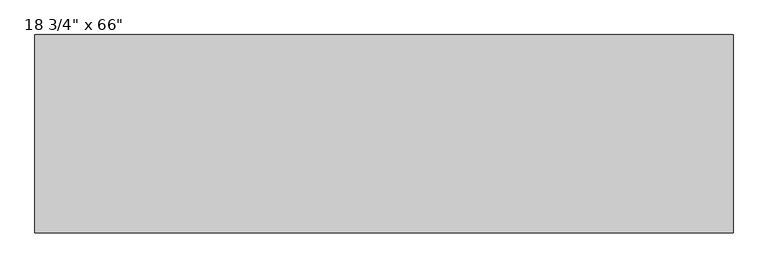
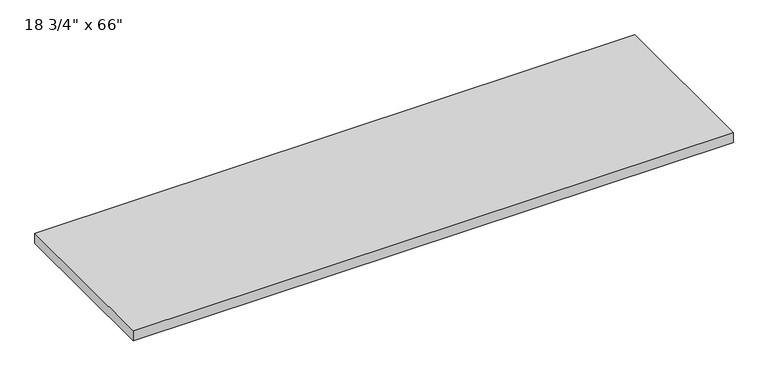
"""IFC4 building model written with IfcOpenShell, lengths in millimetres: furniture geometry."""

from ifc_helpers import new_model, si_unit, frame, origin, place, context, project, spatial, polyline, outline, extrude, source, transform, mapped, element, save


def furniture_9bfe657d(model_context):
    return source(origin(), model_context, "Body", "SweptSolid", [
        extrude(outline(polyline([(838.2, 238.125), (838.2, -238.125), (-838.2, -238.125), (-838.2, 238.125), (838.2, 238.125)])), frame((0.0, 0.0, 1011.2375), z_axis=(0.0, 0.0, 1.0), x_axis=(1.0, 0.0, 0.0)), (0.0, 0.0, 1.0), 30.1625),
    ])


if __name__ == "__main__":
    model = new_model("IFC4")
    model_context = context("Model", 3, world=origin())
    ifc_project = project(units=[si_unit("LENGTHUNIT", "METRE", prefix="MILLI")], contexts=[model_context])
    site = spatial("IfcSite", under=ifc_project)
    building = spatial("IfcBuilding", under=site)
    placement = place(None, origin())
    furniture_shape = furniture_9bfe657d(model_context)
    element("IfcFurniture", 1, ObjectType="Haworth_XSeries-Common_Top : 18 3/4\" x 66\"", at=placement, inside=building, context=model_context, shape_type="MappedRepresentation", body=[
        mapped(furniture_shape, transform((0.0, 0.0, 0.0), x_axis=(1.0, 0.0, 0.0), y_axis=(0.0, 1.0, 0.0), z_axis=(0.0, 0.0, 1.0))),
    ])
    save(model, "model.ifc")
